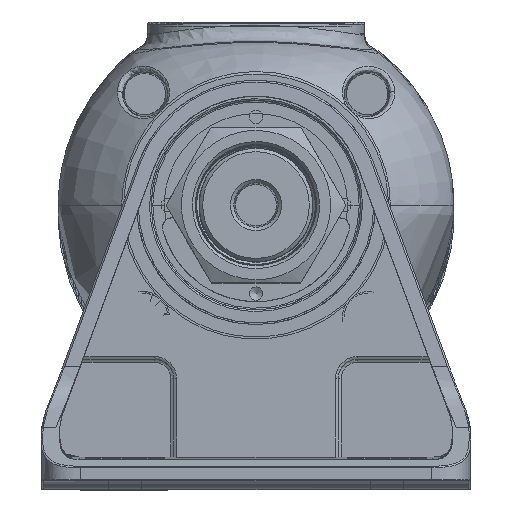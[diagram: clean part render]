
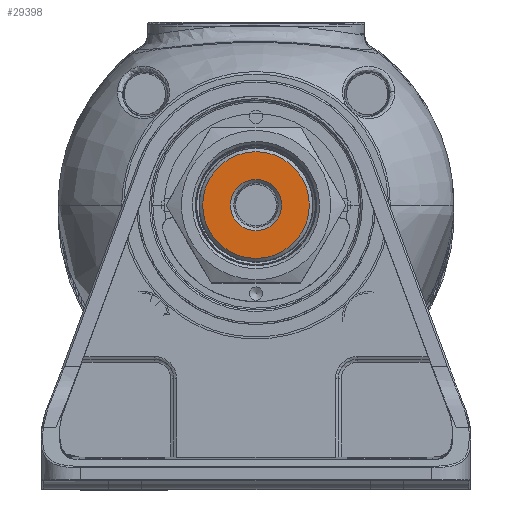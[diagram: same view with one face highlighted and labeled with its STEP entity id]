
A CAD part, top view. The second image highlights one B-rep face of the part: STEP entity #29398.
In plain terms, the highlighted planar face has unit normal (0, 0, 1).
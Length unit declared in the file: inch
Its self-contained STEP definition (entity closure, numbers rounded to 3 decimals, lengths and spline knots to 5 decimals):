
#1155 = EDGE_LOOP ( 'NONE', ( #41577 ) ) ;
#2508 = CARTESIAN_POINT ( 'NONE',  ( 1.18158, 1.46263, 45.9252 ) ) ;
#5063 = EDGE_CURVE ( 'NONE', #10909, #10909, #12433, .T. ) ;
#8707 = AXIS2_PLACEMENT_3D ( 'NONE', #52222, #17834, #26224 ) ;
#10909 = VERTEX_POINT ( 'NONE', #2508 ) ;
#12433 = CIRCLE ( 'NONE', #23143, 0.3209 ) ;
#12456 = EDGE_CURVE ( 'NONE', #45033, #45033, #25686, .T. ) ;
#17793 = CARTESIAN_POINT ( 'NONE',  ( 1.18158, 1.14173, 45.9252 ) ) ;
#17834 = DIRECTION ( 'NONE',  ( 0., 0., -1. ) ) ;
#19700 = ORIENTED_EDGE ( 'NONE', *, *, #5063, .F. ) ;
#23027 = CARTESIAN_POINT ( 'NONE',  ( 1.18158, 1.14173, 45.9252 ) ) ;
#23143 = AXIS2_PLACEMENT_3D ( 'NONE', #23027, #40073, #33349 ) ;
#25686 = CIRCLE ( 'NONE', #8707, 0.15401 ) ;
#26224 = DIRECTION ( 'NONE',  ( 0., -1., 0. ) ) ;
#26454 = FACE_OUTER_BOUND ( 'NONE', #44753, .T. ) ;
#26733 = FACE_BOUND ( 'NONE', #1155, .T. ) ;
#28248 = CARTESIAN_POINT ( 'NONE',  ( 1.18158, 0.98772, 45.9252 ) ) ;
#29398 = ADVANCED_FACE ( 'NONE', ( #26733, #26454 ), #31762, .T. ) ;
#31762 = PLANE ( 'NONE',  #43659 ) ;
#33349 = DIRECTION ( 'NONE',  ( 0., 1., 0. ) ) ;
#35941 = DIRECTION ( 'NONE',  ( 0., 0., 1. ) ) ;
#40073 = DIRECTION ( 'NONE',  ( 0., 0., -1. ) ) ;
#41577 = ORIENTED_EDGE ( 'NONE', *, *, #12456, .T. ) ;
#43659 = AXIS2_PLACEMENT_3D ( 'NONE', #17793, #35941, #44067 ) ;
#44067 = DIRECTION ( 'NONE',  ( 0., -1., 0. ) ) ;
#44753 = EDGE_LOOP ( 'NONE', ( #19700 ) ) ;
#45033 = VERTEX_POINT ( 'NONE', #28248 ) ;
#52222 = CARTESIAN_POINT ( 'NONE',  ( 1.18158, 1.14173, 45.9252 ) ) ;
